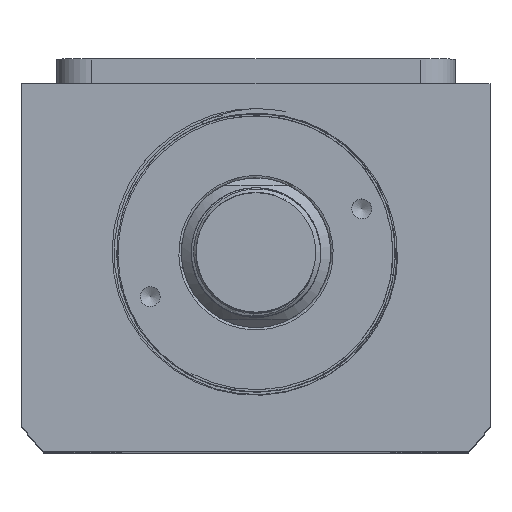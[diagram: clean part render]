
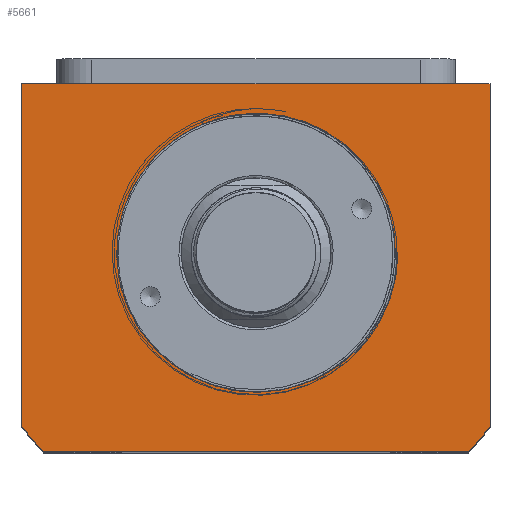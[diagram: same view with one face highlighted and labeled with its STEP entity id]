
A CAD part, top view. The second image highlights one B-rep face of the part: STEP entity #5661.
In plain terms, the highlighted planar face has unit normal (0, 0, 1).
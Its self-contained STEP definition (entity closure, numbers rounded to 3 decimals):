
#2661=PLANE('',#12882);
#3423=LINE('',#17748,#4351);
#3452=LINE('',#18393,#4380);
#3465=LINE('',#18425,#4393);
#3473=LINE('',#18440,#4401);
#3476=LINE('',#18447,#4404);
#4351=VECTOR('',#13363,1.);
#4380=VECTOR('',#13508,1.);
#4393=VECTOR('',#13541,1.);
#4401=VECTOR('',#13551,1.);
#4404=VECTOR('',#13562,1.);
#5661=ADVANCED_FACE('',(#6279,#6280),#2661,.T.);
#6155=CIRCLE('',#12852,58.5);
#6167=CIRCLE('',#12874,58.5);
#6170=CIRCLE('',#12881,28.);
#6279=FACE_BOUND('',#6489,.T.);
#6280=FACE_BOUND('',#6490,.T.);
#6489=EDGE_LOOP('',(#7289,#7290,#7291));
#6490=EDGE_LOOP('',(#7292,#7293,#7294,#7295,#7296,#7297));
#7289=ORIENTED_EDGE('',*,*,#11220,.F.);
#7290=ORIENTED_EDGE('',*,*,#11221,.T.);
#7291=ORIENTED_EDGE('',*,*,#11222,.T.);
#7292=ORIENTED_EDGE('',*,*,#11207,.T.);
#7293=ORIENTED_EDGE('',*,*,#11215,.T.);
#7294=ORIENTED_EDGE('',*,*,#11203,.T.);
#7295=ORIENTED_EDGE('',*,*,#11188,.T.);
#7296=ORIENTED_EDGE('',*,*,#11160,.T.);
#7297=ORIENTED_EDGE('',*,*,#11084,.T.);
#9987=VERTEX_POINT('',#17718);
#10002=VERTEX_POINT('',#17747);
#10076=VERTEX_POINT('',#18332);
#10101=VERTEX_POINT('',#18394);
#10106=VERTEX_POINT('',#18415);
#10109=VERTEX_POINT('',#18424);
#10116=VERTEX_POINT('',#18448);
#10117=VERTEX_POINT('',#18449);
#10118=VERTEX_POINT('',#18460);
#11084=EDGE_CURVE('',#9987,#10002,#3423,.T.);
#11160=EDGE_CURVE('',#10076,#9987,#6155,.T.);
#11188=EDGE_CURVE('',#10101,#10076,#3452,.T.);
#11203=EDGE_CURVE('',#10106,#10101,#6167,.T.);
#11207=EDGE_CURVE('',#10002,#10109,#3465,.T.);
#11215=EDGE_CURVE('',#10109,#10106,#3473,.T.);
#11220=EDGE_CURVE('',#10116,#10117,#3476,.T.);
#11221=EDGE_CURVE('',#10116,#10118,#12509,.T.);
#11222=EDGE_CURVE('',#10118,#10117,#6170,.T.);
#12509=B_SPLINE_CURVE_WITH_KNOTS('',3,(#18450,#18451,#18452,#18453,#18454,
#18455,#18456,#18457,#18458,#18459),.UNSPECIFIED.,.F.,.F.,(4,2,2,2,4),(0.,
0.25,0.5,0.75,1.),.UNSPECIFIED.);
#12852=AXIS2_PLACEMENT_3D('',#18335,#13459,#13460);
#12874=AXIS2_PLACEMENT_3D('',#18418,#13534,#13535);
#12881=AXIS2_PLACEMENT_3D('',#18461,#13563,#13564);
#12882=AXIS2_PLACEMENT_3D('',#18462,#13565,#13566);
#13363=DIRECTION('',(0.,1.,0.));
#13459=DIRECTION('',(0.,0.,1.));
#13460=DIRECTION('',(1.,0.,0.));
#13508=DIRECTION('',(1.,0.,0.));
#13534=DIRECTION('',(0.,0.,1.));
#13535=DIRECTION('',(1.,0.,0.));
#13541=DIRECTION('',(-1.,0.,0.));
#13551=DIRECTION('',(0.,-1.,0.));
#13562=DIRECTION('',(-1.,0.,0.));
#13563=DIRECTION('',(0.,0.,-1.));
#13564=DIRECTION('',(1.,0.,0.));
#13565=DIRECTION('',(0.,0.,1.));
#13566=DIRECTION('',(-1.,0.,0.));
#17718=CARTESIAN_POINT('',(47.,-34.832,62.5));
#17747=CARTESIAN_POINT('',(47.,34.,62.5));
#17748=CARTESIAN_POINT('',(47.,34.,62.5));
#18332=CARTESIAN_POINT('',(42.688,-40.,62.5));
#18335=CARTESIAN_POINT('',(0.,0.,62.5));
#18393=CARTESIAN_POINT('',(42.688,-40.,62.5));
#18394=CARTESIAN_POINT('',(-42.688,-40.,62.5));
#18415=CARTESIAN_POINT('',(-47.,-34.832,62.5));
#18418=CARTESIAN_POINT('',(0.,0.,62.5));
#18424=CARTESIAN_POINT('',(-47.,34.,62.5));
#18425=CARTESIAN_POINT('',(-47.,34.,62.5));
#18440=CARTESIAN_POINT('',(-47.,-34.832,62.5));
#18447=CARTESIAN_POINT('',(0.,0.,62.5));
#18448=CARTESIAN_POINT('',(28.495,0.,62.5));
#18449=CARTESIAN_POINT('',(28.,0.,62.5));
#18450=CARTESIAN_POINT('',(28.495,0.,62.5));
#18451=CARTESIAN_POINT('',(28.456,-2.841,62.5));
#18452=CARTESIAN_POINT('',(27.987,-5.656,62.5));
#18453=CARTESIAN_POINT('',(26.264,-10.986,62.5));
#18454=CARTESIAN_POINT('',(24.983,-13.561,62.5));
#18455=CARTESIAN_POINT('',(21.771,-18.15,62.5));
#18456=CARTESIAN_POINT('',(19.795,-20.234,62.5));
#18457=CARTESIAN_POINT('',(15.367,-23.675,62.5));
#18458=CARTESIAN_POINT('',(12.892,-25.066,62.5));
#18459=CARTESIAN_POINT('',(10.232,-26.064,62.5));
#18460=CARTESIAN_POINT('',(10.232,-26.064,62.5));
#18461=CARTESIAN_POINT('',(0.,0.,62.5));
#18462=CARTESIAN_POINT('',(0.,0.,62.5));
